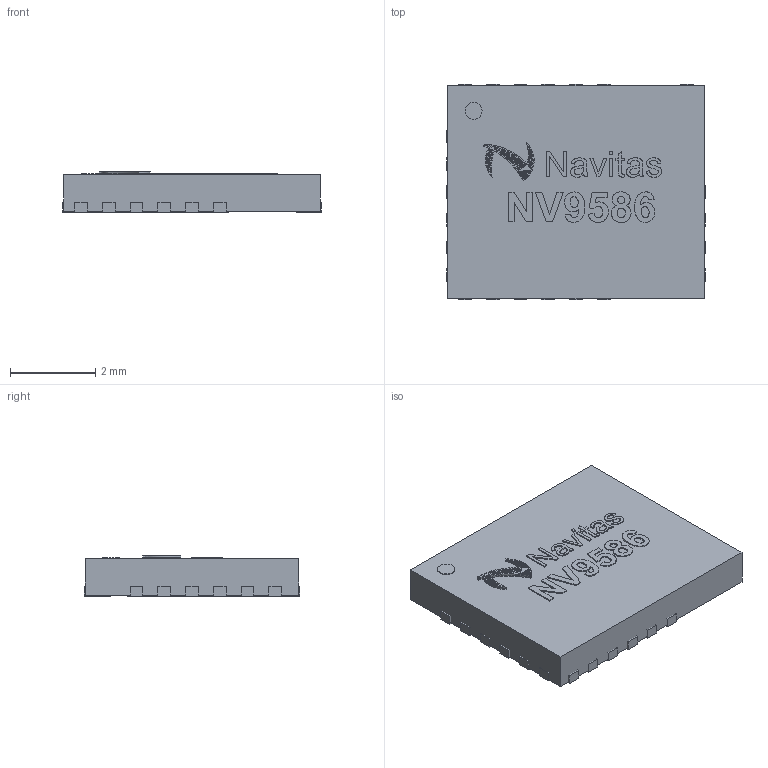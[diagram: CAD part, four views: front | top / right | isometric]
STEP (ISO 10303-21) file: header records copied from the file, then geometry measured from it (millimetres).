
FILE_DESCRIPTION(/* description */ (''),/* implementation_level */ '2;1');
FILE_NAME(/* name */ 'NV9586.step',/* time_stamp */ '2023-02-12T11:45:35-08:00',/* author */ (''),/* organization */ (''),/* preprocessor_version */ 'ST-DEVELOPER v19.2',/* originating_system */ 'Autodesk Translation Framework v11.17.0.187',/* authorisation */ '');
FILE_SCHEMA (('AUTOMOTIVE_DESIGN { 1 0 10303 214 3 1 1 }'));
Length unit declared in the file: millimetre
Products named in the file (1): NV9580
Bounding box: 6.05 x 5.05 x 0.94 mm (x, y, z)
Volume: 29.2 mm3; surface area: 126.5 mm2
Topology: 27 solids, 27 shells, 1277 faces, 2400 edges, 1177 vertices
Faces by surface type: plane 1066, bspline 199, cylinder 12
Full cylindrical faces by diameter (mm): 0.4 x1
Entity records: 31534 total; most frequent: CARTESIAN_POINT 8238, ORIENTED_EDGE 4800, DIRECTION 4184, EDGE_CURVE 2400, LINE 1978, VECTOR 1978, EDGE_LOOP 1289, FACE_OUTER_BOUND 1277
